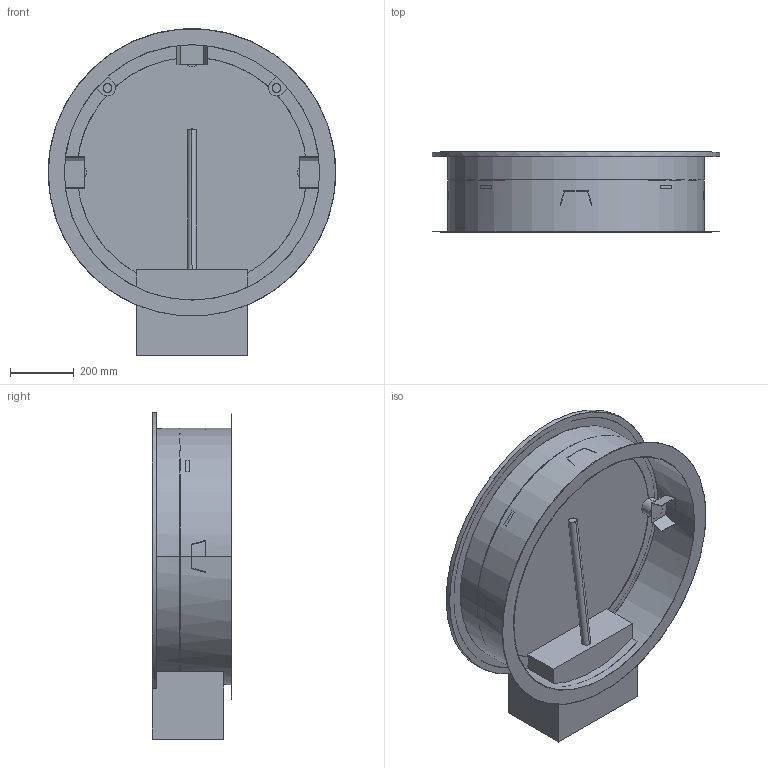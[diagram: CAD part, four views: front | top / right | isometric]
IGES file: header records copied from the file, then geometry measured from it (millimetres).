
Start section:  PTC IGES file: 52342878.igs
Global section: file name: 52342878.igs; native system: Creo Parametric by PTC Inc.; preprocessor: 2022162; author: hrl; organization: Unknown; date: 20250204.074212; units: millimetre
Bounding box: 900 x 250 x 1021.09 mm (x, y, z)
Surface area: 3473451.1 mm2 (no closed solid volume)
Topology: 0 solids, 0 shells, 111 faces, 552 edges, 552 vertices
Faces by surface type: bspline 67, revolution 44
